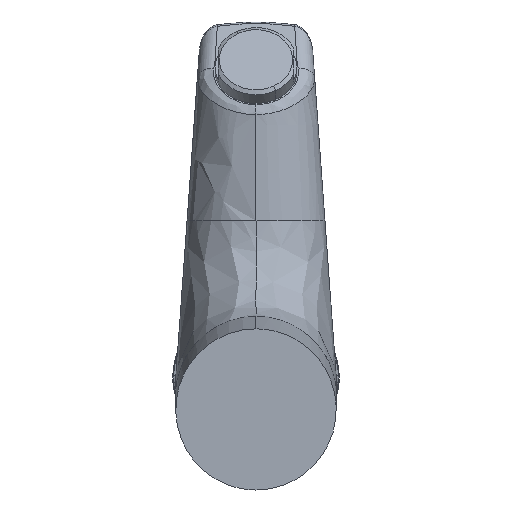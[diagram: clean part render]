
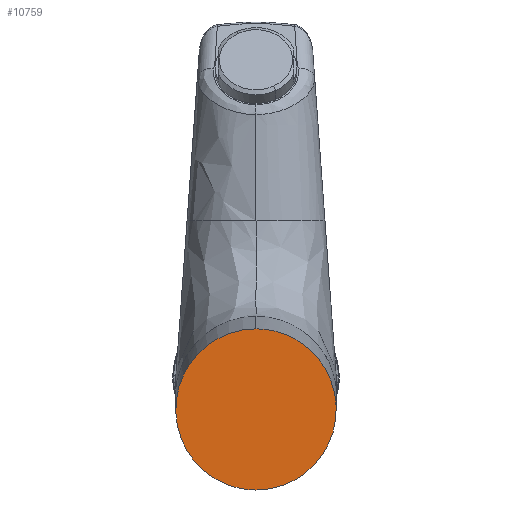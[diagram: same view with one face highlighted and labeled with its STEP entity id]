
A CAD part, front view. The second image highlights one B-rep face of the part: STEP entity #10759.
In plain terms, the highlighted planar face has unit normal (0, -1, 0).
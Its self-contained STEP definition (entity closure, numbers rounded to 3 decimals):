
#72 =( BOUNDED_CURVE ( )  B_SPLINE_CURVE ( 3, ( #6294, #9405, #3309, #9363 ),
 .UNSPECIFIED., .F., .T. ) 
 B_SPLINE_CURVE_WITH_KNOTS ( ( 4, 4 ),
 ( 3.142, 6.283 ),
 .UNSPECIFIED. ) 
 CURVE ( )  GEOMETRIC_REPRESENTATION_ITEM ( )  RATIONAL_B_SPLINE_CURVE ( ( 1., 0.333, 0.333, 1. ) ) 
 REPRESENTATION_ITEM ( '' )  );
#333 = FACE_OUTER_BOUND ( 'NONE', #5819, .T. ) ;
#480 = AXIS2_PLACEMENT_3D ( 'NONE', #5980, #7399, #9268 ) ;
#1306 = CARTESIAN_POINT ( 'NONE',  ( 156.176, 427.492, 489.529 ) ) ;
#1862 = CARTESIAN_POINT ( 'NONE',  ( 109.161, 427.492, 442.334 ) ) ;
#2191 = CARTESIAN_POINT ( 'NONE',  ( 156.176, 427.492, 442.334 ) ) ;
#3131 = PLANE ( 'NONE',  #480 ) ;
#3309 = CARTESIAN_POINT ( 'NONE',  ( 62.146, 427.492, 442.334 ) ) ;
#4567 = VERTEX_POINT ( 'NONE', #9598 ) ;
#5654 = ORIENTED_EDGE ( 'NONE', *, *, #8207, .T. ) ;
#5819 = EDGE_LOOP ( 'NONE', ( #5654, #11582 ) ) ;
#5980 = CARTESIAN_POINT ( 'NONE',  ( 99.661, 427.492, 457.439 ) ) ;
#6294 = CARTESIAN_POINT ( 'NONE',  ( 109.161, 427.492, 489.529 ) ) ;
#6380 = CARTESIAN_POINT ( 'NONE',  ( 109.161, 427.492, 442.334 ) ) ;
#7399 = DIRECTION ( 'NONE',  ( 0., 1., 0. ) ) ;
#7452 = CARTESIAN_POINT ( 'NONE',  ( 109.161, 427.492, 489.529 ) ) ;
#8207 = EDGE_CURVE ( 'NONE', #12799, #4567, #11100, .T. ) ;
#8387 = EDGE_CURVE ( 'NONE', #4567, #12799, #72, .T. ) ;
#9268 = DIRECTION ( 'NONE',  ( 0., 0., 1. ) ) ;
#9363 = CARTESIAN_POINT ( 'NONE',  ( 109.161, 427.492, 442.334 ) ) ;
#9405 = CARTESIAN_POINT ( 'NONE',  ( 62.146, 427.492, 489.529 ) ) ;
#9598 = CARTESIAN_POINT ( 'NONE',  ( 109.161, 427.492, 489.529 ) ) ;
#10759 = ADVANCED_FACE ( 'NONE', ( #333 ), #3131, .F. ) ;
#11100 =( BOUNDED_CURVE ( )  B_SPLINE_CURVE ( 3, ( #6380, #2191, #1306, #7452 ),
 .UNSPECIFIED., .F., .T. ) 
 B_SPLINE_CURVE_WITH_KNOTS ( ( 4, 4 ),
 ( 0., 3.142 ),
 .UNSPECIFIED. ) 
 CURVE ( )  GEOMETRIC_REPRESENTATION_ITEM ( )  RATIONAL_B_SPLINE_CURVE ( ( 1., 0.333, 0.333, 1. ) ) 
 REPRESENTATION_ITEM ( '' )  );
#11582 = ORIENTED_EDGE ( 'NONE', *, *, #8387, .T. ) ;
#12799 = VERTEX_POINT ( 'NONE', #1862 ) ;
